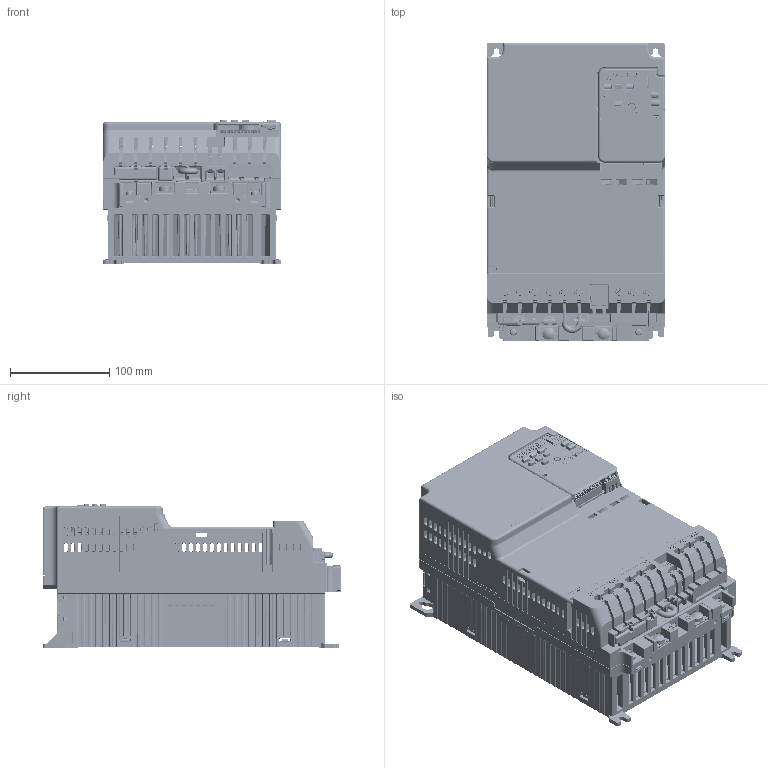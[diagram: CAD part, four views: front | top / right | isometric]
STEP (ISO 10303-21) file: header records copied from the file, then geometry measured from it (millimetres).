
FILE_DESCRIPTION((''),'2;1');
FILE_NAME('GA500_STD_FRAME_V6-A_ASM','2019-03-12T',('anm'),('YASKAWA ELECTRIC CORCORATION'),'PRO/ENGINEER BY PARAMETRIC TECHNOLOGY CORPORATION, 2015440','PRO/ENGINEER BY PARAMETRIC TECHNOLOGY CORPORATION, 2015440','');
FILE_SCHEMA(('CONFIG_CONTROL_DESIGN'));
Products named in the file (177): PRT0001; PRT0002; PRT0003; PRT0004; PRT0005; PRT0006; PRT0007; PRT0008; PRT0009; 300-093-092_1_1; ETP760510_ASM_1_ASM_1_ASM; PRT0010; 400-104-160_1_1; PRT0011; PRT0012; PRT0013; MANIFOLD_SOLID_BREP_625981_1; MANIFOLD_SOLID_BREP_626132_1; MANIFOLD_SOLID_BREP_626283_1; MANIFOLD_SOLID_BREP_626434_1; MANIFOLD_SOLID_BREP_626587_1; MANIFOLD_SOLID_BREP_626738_1; MANIFOLD_SOLID_BREP_626889_1; MANIFOLD_SOLID_BREP_627040_1; MANIFOLD_SOLID_BREP_627191_1; MANIFOLD_SOLID_BREP_627342_1; MANIFOLD_SOLID_BREP_627493_1; 1734753-1_AF1_1_ASM_1_ASM; MANIFOLD_SOLID_BREP_637412_1; MANIFOLD_SOLID_BREP_637596_1; MANIFOLD_SOLID_BREP_637780_1; MANIFOLD_SOLID_BREP_637964_1; MANIFOLD_SOLID_BREP_638148_1; MANIFOLD_SOLID_BREP_638299_1; MANIFOLD_SOLID_BREP_638450_1; MANIFOLD_SOLID_BREP_638601_1; MANIFOLD_SOLID_BREP_638752_1; MANIFOLD_SOLID_BREP_638903_1; MANIFOLD_SOLID_BREP_639054_1; MANIFOLD_SOLID_BREP_639205_1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
Assembly tree (184 placements, depth 7):
  GA500_STD_FRAME_V6-A_ASM
    GA500_EMC_FRAME_V6-B_ASM_1_ASM
      ASM0001_ASM
        PRT0001
        PRT0002
        PRT0003
        PRT0004  x2
        PRT0005  x2
        PRT0006
        ETP760510_ASM_1_ASM_1_ASM
          PRT0007
          PRT0008
          PRT0009
          300-093-092_1_1
        PRT0010  x6
        400-104-160_1_1
        ASM0002_ASM
          PRT0011
          PRT0012
          PRT0013
          1734753-1_AF1_1_ASM_1_ASM
            MANIFOLD_SOLID_BREP_625981_1
            MANIFOLD_SOLID_BREP_626132_1
            MANIFOLD_SOLID_BREP_626283_1
            MANIFOLD_SOLID_BREP_626434_1
            MANIFOLD_SOLID_BREP_626587_1
            MANIFOLD_SOLID_BREP_626738_1
            MANIFOLD_SOLID_BREP_626889_1
            MANIFOLD_SOLID_BREP_627040_1
            MANIFOLD_SOLID_BREP_627191_1
            MANIFOLD_SOLID_BREP_627342_1
            MANIFOLD_SOLID_BREP_627493_1
          DHB-PD20-S131N-4P9_AF1_1_ASM_1_ASM
            MANIFOLD_SOLID_BREP_637412_1
            MANIFOLD_SOLID_BREP_637596_1
            MANIFOLD_SOLID_BREP_637780_1
            MANIFOLD_SOLID_BREP_637964_1
            MANIFOLD_SOLID_BREP_638148_1
            MANIFOLD_SOLID_BREP_638299_1
            MANIFOLD_SOLID_BREP_638450_1
            MANIFOLD_SOLID_BREP_638601_1
            MANIFOLD_SOLID_BREP_638752_1
            MANIFOLD_SOLID_BREP_638903_1
            MANIFOLD_SOLID_BREP_639054_1
            MANIFOLD_SOLID_BREP_639205_1
            MANIFOLD_SOLID_BREP_639356_1
            MANIFOLD_SOLID_BREP_639507_1
            MANIFOLD_SOLID_BREP_639658_1
            MANIFOLD_SOLID_BREP_639809_1
            MANIFOLD_SOLID_BREP_639960_1
            MANIFOLD_SOLID_BREP_640111_1
            MANIFOLD_SOLID_BREP_640262_1
            MANIFOLD_SOLID_BREP_640413_1
            MANIFOLD_SOLID_BREP_640564_1
            MANIFOLD_SOLID_BREP_640715_1
            MANIFOLD_SOLID_BREP_640866_1
            MANIFOLD_SOLID_BREP_641017_1
            MANIFOLD_SOLID_BREP_641168_1
          RT-01T-1P0B_LF_AF1_1_ASM_1_ASM
            MANIFOLD_SOLID_BREP_641405_1
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Bounding box: 180.02 x 300 x 145.75 mm (x, y, z)
Volume: 1262913 mm3; surface area: 914650.1 mm2
Topology: 166 solids, 199 shells, 22654 faces, 61509 edges, 39569 vertices
Faces by surface type: plane 13662, cylinder 4847, bspline 1824, cone 1347, torus 705, sphere 269
Entity records: 826831 total; most frequent: CARTESIAN_POINT 277394, ORIENTED_EDGE 120178, DIRECTION 103993, EDGE_CURVE 60112, VECTOR 41301, LINE 41301, VERTEX_POINT 38879, AXIS2_PLACEMENT_3D 31346
